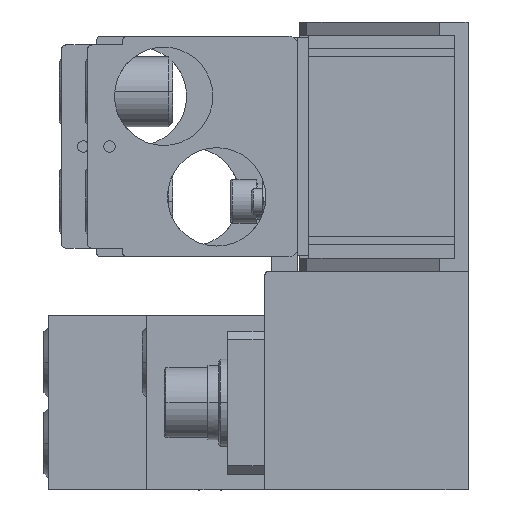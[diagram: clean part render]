
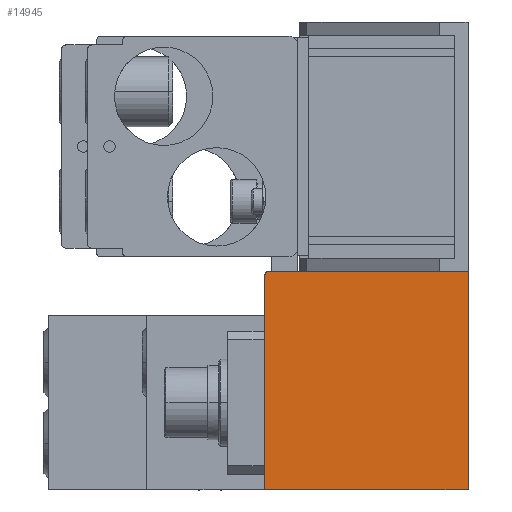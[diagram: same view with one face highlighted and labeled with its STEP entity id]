
A CAD part, left-side view. The second image highlights one B-rep face of the part: STEP entity #14945.
In plain terms, the highlighted planar face has unit normal (-1, 0, 0).
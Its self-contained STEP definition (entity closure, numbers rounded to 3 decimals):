
#3598=DIRECTION('',(0.,1.,0.));
#3599=VECTOR('',#3598,38.5);
#3600=CARTESIAN_POINT('',(-19.,-3.5,-28.5));
#3601=LINE('',#3600,#3599);
#3967=DIRECTION('',(0.,0.,-1.));
#3968=VECTOR('',#3967,49.);
#3969=CARTESIAN_POINT('',(-19.,43.,-29.5));
#3970=LINE('',#3969,#3968);
#4017=CARTESIAN_POINT('',(-19.,42.,-29.5));
#4018=DIRECTION('',(-1.,0.,0.));
#4019=DIRECTION('',(0.,0.,1.));
#4020=AXIS2_PLACEMENT_3D('',#4017,#4018,#4019);
#4025=DIRECTION('',(0.,0.,-1.));
#4026=VECTOR('',#4025,50.);
#4027=CARTESIAN_POINT('',(-19.,-3.5,-28.5));
#4028=LINE('',#4027,#4026);
#4053=DIRECTION('',(0.,1.,0.));
#4054=VECTOR('',#4053,7.);
#4055=CARTESIAN_POINT('',(-19.,35.,-28.5));
#4056=LINE('',#4055,#4054);
#4075=DIRECTION('',(0.,1.,0.));
#4076=VECTOR('',#4075,46.5);
#4077=CARTESIAN_POINT('',(-19.,-3.5,-78.5));
#4078=LINE('',#4077,#4076);
#11020=CARTESIAN_POINT('',(-19.,35.,-28.5));
#11021=VERTEX_POINT('',#11020);
#11034=CARTESIAN_POINT('',(-19.,42.,-28.5));
#11035=CARTESIAN_POINT('',(-19.,43.,-29.5));
#11036=VERTEX_POINT('',#11034);
#11037=VERTEX_POINT('',#11035);
#11042=CARTESIAN_POINT('',(-19.,43.,-78.5));
#11043=VERTEX_POINT('',#11042);
#11217=CARTESIAN_POINT('',(-19.,-3.5,-78.5));
#11219=VERTEX_POINT('',#11217);
#11220=CARTESIAN_POINT('',(-19.,-3.5,-28.5));
#11221=VERTEX_POINT('',#11220);
#14930=CARTESIAN_POINT('',(-19.,0.,-28.5));
#14931=DIRECTION('',(-1.,0.,0.));
#14932=DIRECTION('',(0.,1.,0.));
#14933=AXIS2_PLACEMENT_3D('',#14930,#14931,#14932);
#14934=PLANE('',#14933);
#14935=ORIENTED_EDGE('',*,*,#14921,.F.);
#14937=ORIENTED_EDGE('',*,*,#14936,.F.);
#14938=ORIENTED_EDGE('',*,*,#14548,.F.);
#14939=ORIENTED_EDGE('',*,*,#13056,.T.);
#14941=ORIENTED_EDGE('',*,*,#14940,.T.);
#14942=ORIENTED_EDGE('',*,*,#14878,.F.);
#14943=EDGE_LOOP('',(#14935,#14937,#14938,#14939,#14941,#14942));
#14944=FACE_OUTER_BOUND('',#14943,.F.);
#14945=ADVANCED_FACE('',(#14944),#14934,.T.);
#4021=CIRCLE('',#4020,1.);
#13056=EDGE_CURVE('',#11221,#11219,#4028,.T.);
#14548=EDGE_CURVE('',#11221,#11021,#3601,.T.);
#14878=EDGE_CURVE('',#11037,#11043,#3970,.T.);
#14921=EDGE_CURVE('',#11036,#11037,#4021,.T.);
#14936=EDGE_CURVE('',#11021,#11036,#4056,.T.);
#14940=EDGE_CURVE('',#11219,#11043,#4078,.T.);
